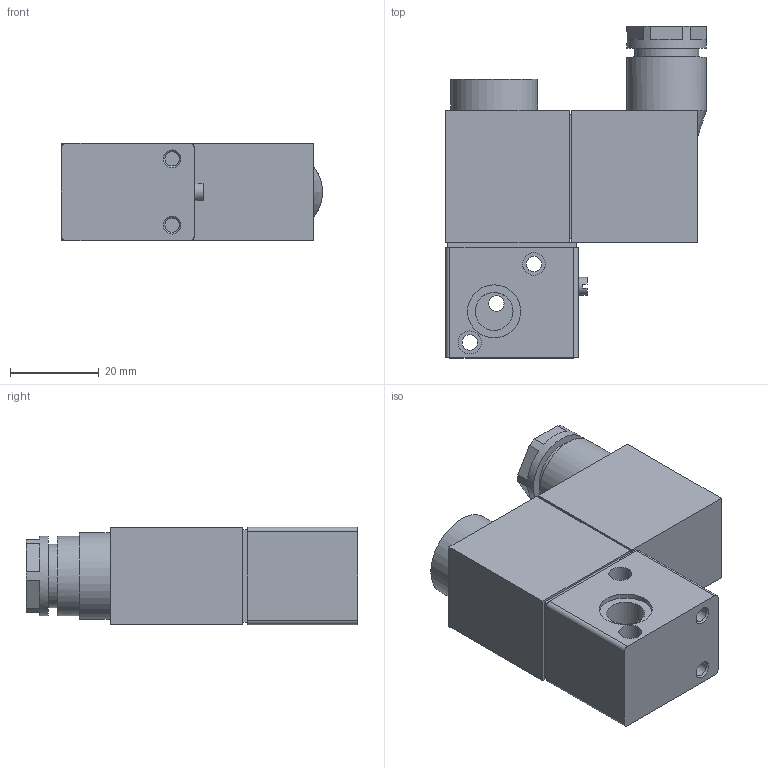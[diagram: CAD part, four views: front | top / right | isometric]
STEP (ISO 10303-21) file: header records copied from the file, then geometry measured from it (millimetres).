
FILE_DESCRIPTION(/* description */ ('STEP AP214'),/* implementation_level */ '2;1');
FILE_NAME(/* name */ '86-MS-3V-01-xxx.stp',/* time_stamp */ '2026-01-15T09:13:22+01:00',/* author */ ('Tschernatsch'),/* organization */ ('CADENAS'),/* preprocessor_version */ 'ST-DEVELOPER v20',/* originating_system */ 'Autodesk Inventor 2024',/* authorisation */ ' ');
FILE_SCHEMA (('AUTOMOTIVE_DESIGN { 1 0 10303 214 3 1 1 }'));
Length unit declared in the file: millimetre
Products named in the file (3): 3v1-06-LD-DC24V; 3v1-06-LD-DC24V3; 3v1-06-LD-DC24V2
Assembly tree (2 placements, depth 2):
  3v1-06-LD-DC24V
    3v1-06-LD-DC24V3
    3v1-06-LD-DC24V2
Bounding box: 59 x 75 x 22 mm (x, y, z)
Volume: 58198.1 mm3; surface area: 14860.7 mm2
Topology: 2 solids, 2 shells, 90 faces, 195 edges, 129 vertices
Faces by surface type: plane 61, cylinder 25, cone 4
Full cylindrical faces by diameter (mm): 3.242 x2, 3.5 x3, 4 x1, 4.3 x1, 5.2 x4, 8.566 x3, 11 x1, 12 x2, 14.4 x1, 18 x2, 19.6 x1
Entity records: 2601 total; most frequent: DIRECTION 457, CARTESIAN_POINT 421, ORIENTED_EDGE 390, EDGE_CURVE 195, AXIS2_PLACEMENT_3D 168, VERTEX_POINT 129, LINE 121, VECTOR 121
